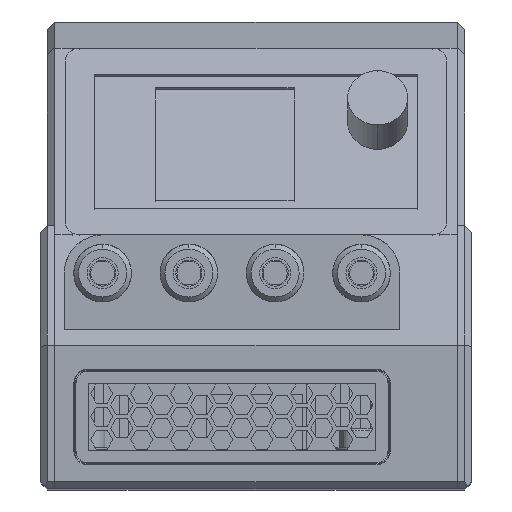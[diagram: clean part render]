
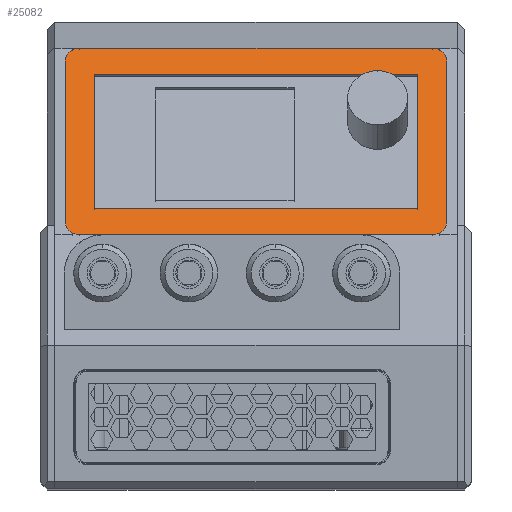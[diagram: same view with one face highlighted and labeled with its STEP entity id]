
A CAD part, top view. The second image highlights one B-rep face of the part: STEP entity #25082.
In plain terms, the highlighted planar face has unit normal (0, 0.423, 0.906) as drawn and (0, -1, 0) by its records, which use the part's own axes.
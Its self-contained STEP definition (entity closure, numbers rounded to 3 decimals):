
#133 = CARTESIAN_POINT ( 'NONE',  ( 0., 0., 0. ) ) ;
#229 = DIRECTION ( 'NONE',  ( 0., -1., 0. ) ) ;
#3032 = VERTEX_POINT ( 'NONE', #14459 ) ;
#5757 = AXIS2_PLACEMENT_3D ( 'NONE', #8145, #46254, #8805 ) ;
#6593 = EDGE_CURVE ( 'NONE', #41550, #69353, #29835, .T. ) ;
#7283 = ORIENTED_EDGE ( 'NONE', *, *, #28358, .F. ) ;
#7866 = CARTESIAN_POINT ( 'NONE',  ( -14.675, 0., -3.698 ) ) ;
#8005 = DIRECTION ( 'NONE',  ( 0., 1., 0. ) ) ;
#8145 = CARTESIAN_POINT ( 'NONE',  ( -11.675, 0., -0.698 ) ) ;
#8805 = DIRECTION ( 'NONE',  ( 0., 0., 1. ) ) ;
#11303 = CARTESIAN_POINT ( 'NONE',  ( -8.675, 0., 33.302 ) ) ;
#11921 = LINE ( 'NONE', #7866, #45383 ) ;
#12172 = EDGE_CURVE ( 'NONE', #3032, #27312, #57947, .T. ) ;
#14459 = CARTESIAN_POINT ( 'NONE',  ( 58.825, 0., 33.302 ) ) ;
#15343 = CARTESIAN_POINT ( 'NONE',  ( 61.825, 0., 39.302 ) ) ;
#15388 = DIRECTION ( 'NONE',  ( 0., -1., 0. ) ) ;
#15995 = DIRECTION ( 'NONE',  ( 0., 0., 1. ) ) ;
#16025 = DIRECTION ( 'NONE',  ( 1., 0., 0. ) ) ;
#16739 = DIRECTION ( 'NONE',  ( -1., 0., 0. ) ) ;
#19136 = CIRCLE ( 'NONE', #44166, 3. ) ;
#20239 = ORIENTED_EDGE ( 'NONE', *, *, #44221, .F. ) ;
#22589 = DIRECTION ( 'NONE',  ( 0., 0., 1. ) ) ;
#22594 = DIRECTION ( 'NONE',  ( 0., -1., 0. ) ) ;
#23609 = CIRCLE ( 'NONE', #31508, 3. ) ;
#24055 = EDGE_CURVE ( 'NONE', #89629, #42095, #19136, .T. ) ;
#24274 = ORIENTED_EDGE ( 'NONE', *, *, #67769, .T. ) ;
#24461 = CARTESIAN_POINT ( 'NONE',  ( -8.675, 0., 2.302 ) ) ;
#25082 = ADVANCED_FACE ( 'NONE', ( #34062, #36451 ), #46757, .F. ) ;
#25860 = CARTESIAN_POINT ( 'NONE',  ( -8.675, 0., 33.302 ) ) ;
#27147 = VERTEX_POINT ( 'NONE', #78426 ) ;
#27312 = VERTEX_POINT ( 'NONE', #11303 ) ;
#27727 = LINE ( 'NONE', #93556, #58123 ) ;
#28358 = EDGE_CURVE ( 'NONE', #68933, #3032, #27727, .T. ) ;
#29835 = CIRCLE ( 'NONE', #61866, 3. ) ;
#30980 = ORIENTED_EDGE ( 'NONE', *, *, #45805, .T. ) ;
#31347 = ORIENTED_EDGE ( 'NONE', *, *, #55995, .F. ) ;
#31508 = AXIS2_PLACEMENT_3D ( 'NONE', #44888, #229, #46848 ) ;
#31599 = VERTEX_POINT ( 'NONE', #39813 ) ;
#33435 = CARTESIAN_POINT ( 'NONE',  ( -14.675, 0., 39.302 ) ) ;
#34062 = FACE_BOUND ( 'NONE', #90876, .T. ) ;
#34511 = VERTEX_POINT ( 'NONE', #96043 ) ;
#35477 = VECTOR ( 'NONE', #87914, 1000. ) ;
#35746 = AXIS2_PLACEMENT_3D ( 'NONE', #133, #8005, #91209 ) ;
#36210 = LINE ( 'NONE', #24461, #70135 ) ;
#36253 = LINE ( 'NONE', #98842, #75360 ) ;
#36451 = FACE_OUTER_BOUND ( 'NONE', #83872, .T. ) ;
#36939 = CARTESIAN_POINT ( 'NONE',  ( 64.825, 0., -3.698 ) ) ;
#39813 = CARTESIAN_POINT ( 'NONE',  ( 64.825, 0., 36.302 ) ) ;
#41550 = VERTEX_POINT ( 'NONE', #83278 ) ;
#42095 = VERTEX_POINT ( 'NONE', #84136 ) ;
#44166 = AXIS2_PLACEMENT_3D ( 'NONE', #81364, #22594, #98184 ) ;
#44221 = EDGE_CURVE ( 'NONE', #89629, #61057, #62170, .T. ) ;
#44550 = DIRECTION ( 'NONE',  ( 1., 0., 0. ) ) ;
#44888 = CARTESIAN_POINT ( 'NONE',  ( 61.825, 0., 36.302 ) ) ;
#45383 = VECTOR ( 'NONE', #93075, 1000. ) ;
#45805 = EDGE_CURVE ( 'NONE', #34511, #27147, #76664, .T. ) ;
#46129 = EDGE_CURVE ( 'NONE', #72185, #68933, #36210, .T. ) ;
#46254 = DIRECTION ( 'NONE',  ( 0., -1., 0. ) ) ;
#46757 = PLANE ( 'NONE',  #35746 ) ;
#46848 = DIRECTION ( 'NONE',  ( 0., 0., 1. ) ) ;
#48425 = DIRECTION ( 'NONE',  ( 0., 0., 1. ) ) ;
#53607 = CARTESIAN_POINT ( 'NONE',  ( 58.825, 0., 2.302 ) ) ;
#55995 = EDGE_CURVE ( 'NONE', #34511, #42095, #36253, .T. ) ;
#56136 = CARTESIAN_POINT ( 'NONE',  ( 61.825, 0., -0.698 ) ) ;
#57145 = CARTESIAN_POINT ( 'NONE',  ( -8.675, 0., 2.302 ) ) ;
#57947 = LINE ( 'NONE', #25860, #91564 ) ;
#58123 = VECTOR ( 'NONE', #15995, 1000. ) ;
#61057 = VERTEX_POINT ( 'NONE', #15343 ) ;
#61847 = VECTOR ( 'NONE', #44550, 1000. ) ;
#61866 = AXIS2_PLACEMENT_3D ( 'NONE', #56136, #15388, #48425 ) ;
#61943 = ORIENTED_EDGE ( 'NONE', *, *, #6593, .T. ) ;
#62170 = LINE ( 'NONE', #33435, #61847 ) ;
#62881 = ORIENTED_EDGE ( 'NONE', *, *, #79353, .F. ) ;
#63372 = EDGE_CURVE ( 'NONE', #31599, #69353, #63697, .T. ) ;
#63697 = LINE ( 'NONE', #36939, #98656 ) ;
#67002 = LINE ( 'NONE', #89242, #35477 ) ;
#67054 = ORIENTED_EDGE ( 'NONE', *, *, #24055, .T. ) ;
#67769 = EDGE_CURVE ( 'NONE', #31599, #61057, #23609, .T. ) ;
#68933 = VERTEX_POINT ( 'NONE', #53607 ) ;
#69353 = VERTEX_POINT ( 'NONE', #92896 ) ;
#70135 = VECTOR ( 'NONE', #16025, 1000. ) ;
#72185 = VERTEX_POINT ( 'NONE', #57145 ) ;
#72360 = CARTESIAN_POINT ( 'NONE',  ( -11.675, 0., 39.302 ) ) ;
#75360 = VECTOR ( 'NONE', #22589, 1000. ) ;
#76664 = CIRCLE ( 'NONE', #5757, 3. ) ;
#76826 = ORIENTED_EDGE ( 'NONE', *, *, #63372, .F. ) ;
#78426 = CARTESIAN_POINT ( 'NONE',  ( -11.675, 0., -3.698 ) ) ;
#79353 = EDGE_CURVE ( 'NONE', #41550, #27147, #11921, .T. ) ;
#79756 = ORIENTED_EDGE ( 'NONE', *, *, #46129, .F. ) ;
#81364 = CARTESIAN_POINT ( 'NONE',  ( -11.675, 0., 36.302 ) ) ;
#83278 = CARTESIAN_POINT ( 'NONE',  ( 61.825, 0., -3.698 ) ) ;
#83872 = EDGE_LOOP ( 'NONE', ( #31347, #30980, #62881, #61943, #76826, #24274, #20239, #67054 ) ) ;
#84136 = CARTESIAN_POINT ( 'NONE',  ( -14.675, 0., 36.302 ) ) ;
#87914 = DIRECTION ( 'NONE',  ( 0., 0., -1. ) ) ;
#89242 = CARTESIAN_POINT ( 'NONE',  ( -8.675, 0., 33.302 ) ) ;
#89629 = VERTEX_POINT ( 'NONE', #72360 ) ;
#90876 = EDGE_LOOP ( 'NONE', ( #79756, #95849, #97049, #7283 ) ) ;
#90975 = EDGE_CURVE ( 'NONE', #27312, #72185, #67002, .T. ) ;
#91028 = DIRECTION ( 'NONE',  ( 0., 0., -1. ) ) ;
#91209 = DIRECTION ( 'NONE',  ( 0., 0., 1. ) ) ;
#91564 = VECTOR ( 'NONE', #16739, 1000. ) ;
#92896 = CARTESIAN_POINT ( 'NONE',  ( 64.825, 0., -0.698 ) ) ;
#93075 = DIRECTION ( 'NONE',  ( -1., 0., 0. ) ) ;
#93556 = CARTESIAN_POINT ( 'NONE',  ( 58.825, 0., 33.302 ) ) ;
#95849 = ORIENTED_EDGE ( 'NONE', *, *, #90975, .F. ) ;
#96043 = CARTESIAN_POINT ( 'NONE',  ( -14.675, 0., -0.698 ) ) ;
#97049 = ORIENTED_EDGE ( 'NONE', *, *, #12172, .F. ) ;
#98184 = DIRECTION ( 'NONE',  ( 0., 0., 1. ) ) ;
#98656 = VECTOR ( 'NONE', #91028, 1000. ) ;
#98842 = CARTESIAN_POINT ( 'NONE',  ( -14.675, 0., -3.698 ) ) ;
